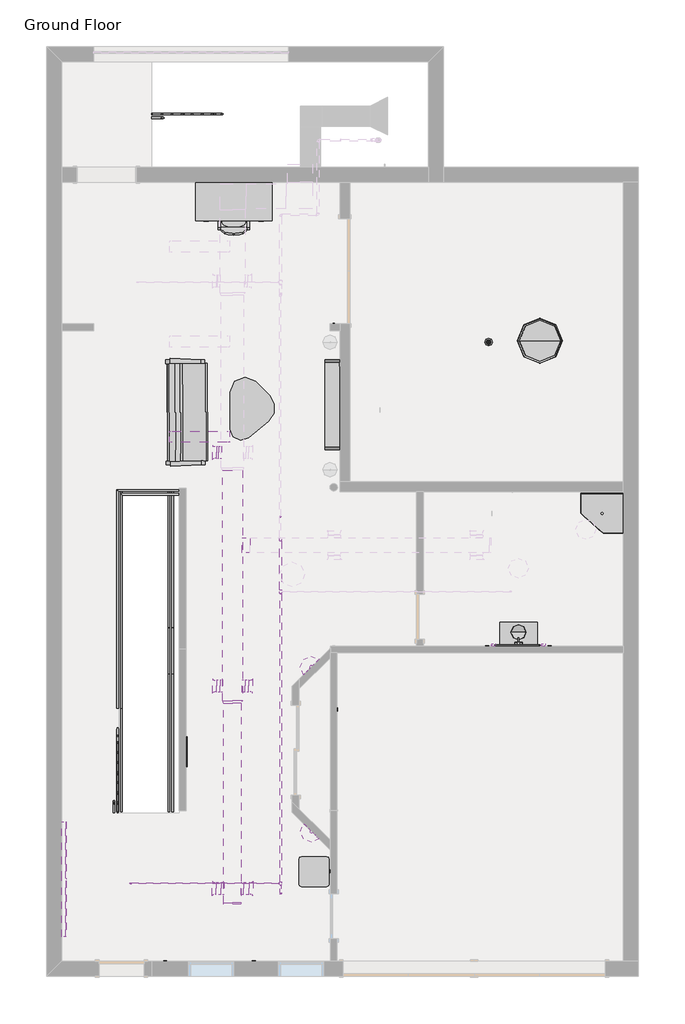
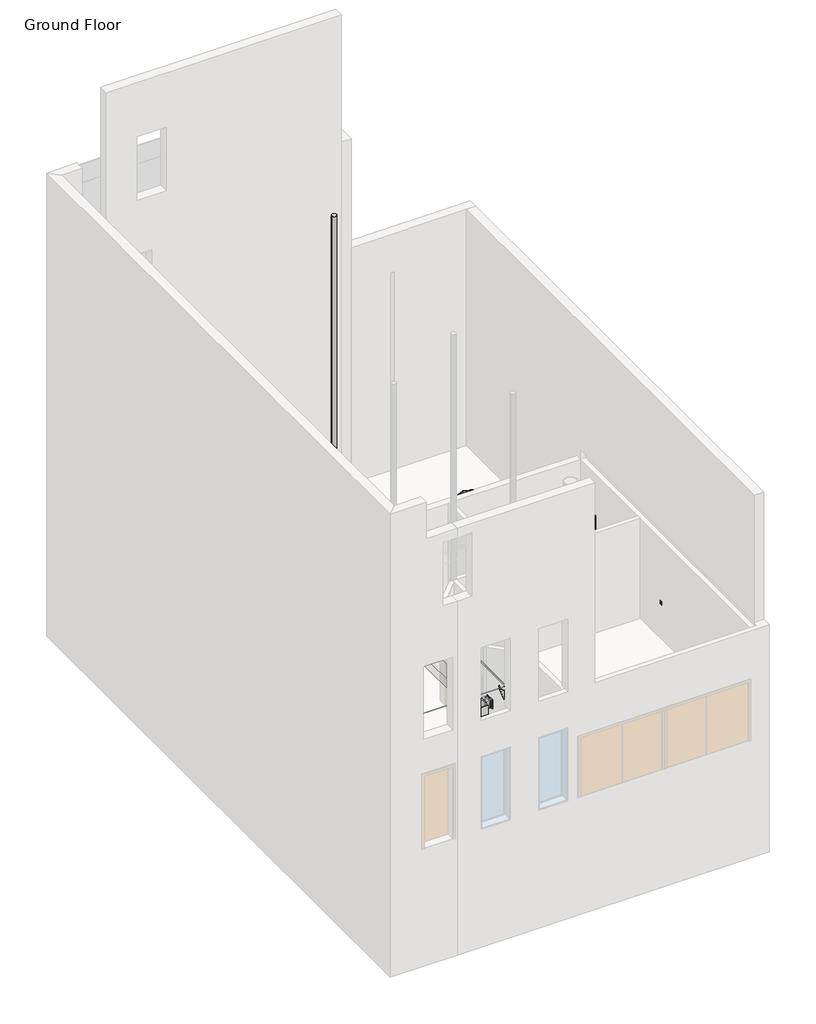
# One storey, part 2 of 4: 17 pipe fittings, 13 pipe segments, 9 furniture elements, 8 duct fittings, 7 duct segments, 7 proxies, 6 light fixtures, 5 air terminals, 12 other elements.
"""IFC4 building model written with IfcOpenShell, lengths in millimetres."""

from ifc_helpers import new_model, si_unit, point, frame, frame_2d, origin, place, context, project, spatial, polyline, circle_curve, trimmed, segment, composite_curve, outline, extrude, transform, mapped, element, save
from ifc_brep_helpers import plane_surface, cylinder_surface, advanced_brep
from components import air_terminal_37217d21, receptacle_gfci_367a9a66, rectangular_duct_endcap_standard_acce21dd, rectangular_duct_takeoff_sidewall_standard_8ecd27dc, rectangular_duct_takeoff_sidewall_standard_de4d9739, rectangular_duct_takeoff_standard_44ffc3b4, rectangular_duct_transition_standard_857d146e, fire_suppression_terminal_f250fbbb, flow_terminal_45145805, flow_terminal_8c04bb20, flow_terminal_b3096e9a, chair_executive_chair_executive_8d69e98c, furniture_013ab306, maple_legs_1e4ba76a, mirror_2_x_6_381cc33e, mirror_3_x_4_424c4327, furniture_6f8441ab, furniture_fb1f61f5, furniture_bcf351fa, furniture_c80d6d9c, light_fixture_3b4cde5a, light_fixture_b06bbfae, sconce_light_uplight_100w_120v_70b3641e, bow_series_bow_series_fd234733, pipe_elbow_standard_aad62f2d, pipe_elbow1_standard_2_feaaf02c, pipe_tee_standard_feafe2f1, pipe_tee_standard_60c871d1, pipe_transition_eccentric_standard_8de4c794, pipe_transition_eccentric_standard_b9d171b6, pipe_transition_eccentric_standard_dbf49378, pipe_transition_eccentric_standard_a9eec213, guardrail_pipe_c5471f49, guardrail_pipe_06b17180, guardrail_pipe_2ce98fbd, guardrail_pipe_2feb66e3, guardrail_pipe_ee13584f

model = new_model("IFC4")

# Units and contexts
model_context = context("Model", 3, world=origin())
ifc_project = project(units=[si_unit("LENGTHUNIT", "METRE", prefix="MILLI")], contexts=[model_context])

# Site, building, storey
site = spatial("IfcSite", under=ifc_project)
building = spatial("IfcBuilding", under=site)
storey = spatial("IfcBuildingStorey", under=building, Name="Ground Floor", Elevation=0.0)

# Air terminals
placement = place(None, origin())
air_terminal_shape = air_terminal_37217d21(model_context)
element("IfcAirTerminal", 1, ObjectType="Sidewall Diffuser : 10\" x 10\"", at=placement, inside=storey, context=model_context, shape_type="MappedRepresentation", body=[
    mapped(air_terminal_shape, transform((-1397.8737449, -5204.9375025, 2743.2), x_axis=(0.0, -1.0000000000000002, 0.0), y_axis=(1.0000000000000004, 0.0, 0.0), z_axis=(0.0, 0.0, 1.0000000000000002))),
])
element("IfcAirTerminal", 2, ObjectType="Sidewall Diffuser : 10\" x 10\"", at=placement, inside=storey, context=model_context, shape_type="MappedRepresentation", body=[
    mapped(air_terminal_shape, transform((-1391.5237449, -1090.1375025, 2743.2), x_axis=(0.0, -1.0000000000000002, 0.0), y_axis=(1.0000000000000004, 0.0, 0.0), z_axis=(0.0, 0.0, 1.0000000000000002))),
])
element("IfcAirTerminal", 3, ObjectType="Sidewall Diffuser : 10\" x 10\"", at=placement, inside=storey, context=model_context, shape_type="MappedRepresentation", body=[
    mapped(air_terminal_shape, transform((-581.3861702, -1090.1375025, 2743.2), x_axis=(0.0, 1.0, 0.0), y_axis=(-1.0, 0.0, 0.0), z_axis=(0.0, 0.0, 1.0))),
])
element("IfcAirTerminal", 4, ObjectType="Sidewall Diffuser : 10\" x 10\"", at=placement, inside=storey, context=model_context, shape_type="MappedRepresentation", body=[
    mapped(air_terminal_shape, transform((-1391.5237449, 3659.6624975, 2743.2), x_axis=(0.0, -1.0000000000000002, 0.0), y_axis=(1.0000000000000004, 0.0, 0.0), z_axis=(0.0, 0.0, 1.0000000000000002))),
])
element("IfcAirTerminal", 5, ObjectType="Sidewall Diffuser : 10\" x 10\"", at=placement, inside=storey, context=model_context, shape_type="MappedRepresentation", body=[
    mapped(air_terminal_shape, transform((-579.0909416, -5204.9375025, 2743.2), x_axis=(0.0, 1.0, 0.0), y_axis=(-1.0, 0.0, 0.0), z_axis=(0.0, 0.0, 1.0))),
])

# Proxies
receptacle_gfci_shape = receptacle_gfci_367a9a66(model_context)
element("IfcBuildingElementProxy", 6, Name="Receptacle : GFCI", ObjectType="Receptacle : GFCI", at=placement, inside=storey, context=model_context, shape_type="MappedRepresentation", body=[
    mapped(receptacle_gfci_shape, transform((-555.4439612, -6684.540357, 1219.2), x_axis=(-1.0, 0.0, 0.0), y_axis=(0.0, 0.0, 1.0), z_axis=(0.0, 1.0, 0.0))),
])
element("IfcBuildingElementProxy", 7, Name="Receptacle : GFCI", ObjectType="Receptacle : GFCI", at=placement, inside=storey, context=model_context, shape_type="MappedRepresentation", body=[
    mapped(receptacle_gfci_shape, transform((-2358.8439612, -6684.540357, 1219.2), x_axis=(-1.0, 0.0, 0.0), y_axis=(0.0, 0.0, 1.0), z_axis=(0.0, 1.0, 0.0))),
])
element("IfcBuildingElementProxy", 8, Name="Receptacle : GFCI", ObjectType="Receptacle : GFCI", at=placement, inside=storey, context=model_context, shape_type="MappedRepresentation", body=[
    mapped(receptacle_gfci_shape, transform((1000.3060388, -4855.740357, 1219.2), x_axis=(0.0, -1.0, 0.0), y_axis=(0.0, 0.0, 1.0), z_axis=(-1.0, 0.0, 0.0))),
])
element("IfcBuildingElementProxy", 9, Name="Receptacle : GFCI", ObjectType="Receptacle : GFCI", at=placement, inside=storey, context=model_context, shape_type="MappedRepresentation", body=[
    mapped(receptacle_gfci_shape, transform((4194.3560388, -277.390357, 1219.2), x_axis=(-1.0, 0.0, 0.0), y_axis=(0.0, 0.0, 1.0), z_axis=(0.0, 1.0, 0.0))),
])
element("IfcBuildingElementProxy", 10, Name="Receptacle : GFCI", ObjectType="Receptacle : GFCI", at=placement, inside=storey, context=model_context, shape_type="MappedRepresentation", body=[
    mapped(receptacle_gfci_shape, transform((1140.0060388, -1566.440357, 1219.2), x_axis=(0.0, 1.0, 0.0), y_axis=(0.0, 0.0, 1.0), z_axis=(1.0, 0.0, 0.0))),
])
element("IfcBuildingElementProxy", 11, Name="Receptacle : GFCI", ObjectType="Receptacle : GFCI", at=placement, inside=storey, context=model_context, shape_type="MappedRepresentation", body=[
    mapped(receptacle_gfci_shape, transform((6962.9560388, -1566.440357, 1219.2), x_axis=(0.0, -1.0, 0.0), y_axis=(0.0, 0.0, 1.0), z_axis=(-1.0, 0.0, 0.0))),
])
element("IfcBuildingElementProxy", 12, Name="Receptacle : GFCI", ObjectType="Receptacle : GFCI", at=placement, inside=storey, context=model_context, shape_type="MappedRepresentation", body=[
    mapped(receptacle_gfci_shape, transform((5464.3560388, -277.390357, 1219.2), x_axis=(-1.0, 0.0, 0.0), y_axis=(0.0, 0.0, 1.0), z_axis=(0.0, 1.0, 0.0))),
])

# Column
element("IfcColumn", 13, ObjectType="Round Column : 06\" Diameter", at=placement, inside=storey, context=model_context, shape_type="AdvancedBrep", body=[
    advanced_brep(
    [(1146.3560388, 6205.959643, 11582.4), (1070.1560388, 6282.159643, 11582.4), (993.9560388, 6205.959643, 11582.4), (1039.7025086, 6275.809643, 0.0), (1070.1560388, 6282.159643, 0.0), (1100.609569, 6275.809643, 0.0), (1146.3560388, 6205.959643, 3352.8), (1100.609569, 6275.809643, 3352.8), (1039.7025086, 6275.809643, 3352.8), (993.9560388, 6205.959643, 3352.8), (1039.7025086, 6136.109643, 3352.8), (1039.7025086, 6136.109643, 0.0), (1100.609569, 6136.109643, 0.0), (1100.609569, 6136.109643, 3352.8)],
    [
        (0, 1, circle_curve(frame((1070.1560388, 6205.959643, 11582.4), z_axis=(0.0, 0.0, 1.0), x_axis=(1.0, 0.0, 0.0)), 76.2)),
        (1, 2, circle_curve(frame((1070.1560388, 6205.959643, 11582.4), z_axis=(0.0, 0.0, 1.0), x_axis=(1.0, 0.0, 0.0)), 76.2)),
        (2, 0, circle_curve(frame((1070.1560388, 6205.959643, 11582.4), z_axis=(0.0, 0.0, 1.0), x_axis=(1.0, 0.0, 0.0)), 76.2)),
        (3, 4, circle_curve(frame((1070.1560388, 6205.959643, 0.0), z_axis=(0.0, 0.0, -1.0), x_axis=(1.0, 0.0, 0.0)), 76.2)),
        (4, 5, circle_curve(frame((1070.1560388, 6205.959643, 0.0), z_axis=(0.0, 0.0, -1.0), x_axis=(1.0, 0.0, 0.0)), 76.2)),
        (5, 3),
        (0, 6),
        (6, 7, circle_curve(frame((1070.1560388, 6205.959643, 3352.8), z_axis=(0.0, 0.0, 1.0), x_axis=(1.0, 0.0, 0.0)), 76.2)),
        (7, 5),
        (4, 1),
        (3, 8),
        (8, 9, circle_curve(frame((1070.1560388, 6205.959643, 3352.8), z_axis=(0.0, 0.0, 1.0), x_axis=(1.0, 0.0, 0.0)), 76.2)),
        (9, 2),
        (9, 10, circle_curve(frame((1070.1560388, 6205.959643, 3352.8), z_axis=(0.0, 0.0, 1.0), x_axis=(1.0, 0.0, 0.0)), 76.2)),
        (10, 11),
        (11, 12, circle_curve(frame((1070.1560388, 6205.959643, 0.0), z_axis=(0.0, 0.0, 1.0), x_axis=(1.0, 0.0, 0.0)), 76.2)),
        (12, 13),
        (13, 6, circle_curve(frame((1070.1560388, 6205.959643, 3352.8), z_axis=(0.0, 0.0, 1.0), x_axis=(1.0, 0.0, 0.0)), 76.2)),
        (10, 13),
        (12, 11),
        (7, 8),
    ],
    [
        plane_surface(frame((1146.3560388, 6205.959643, 11582.4), z_axis=(0.0, 0.0, 1.0), x_axis=(0.0, 1.0, 0.0))),
        plane_surface(frame((1146.3560388, 6205.959643, 0.0), z_axis=(0.0, 0.0, -1.0), x_axis=(0.0, -1.0, 0.0))),
        cylinder_surface(frame((1070.1560388, 6205.959643, 0.0), z_axis=(0.0, 0.0, 1.0), x_axis=(1.0, 0.0, 0.0)), 76.2),
        plane_surface(frame((993.9560388, 6136.109643, 0.0), z_axis=(0.0, 1.0, 0.0), x_axis=(1.0, 0.0, 0.0))),
        plane_surface(frame((993.9560388, 6275.809643, 0.0), z_axis=(0.0, -1.0, 0.0), x_axis=(-1.0, 0.0, 0.0))),
        plane_surface(frame((-4619.4439612, 11603.459643, 3352.8), z_axis=(0.0, 0.0, -1.0), x_axis=(0.0, 1.0, 0.0))),
    ],
    [
        (0, [[1, 2, 3]]),
        (1, [[4, 5, 6]]),
        (2, [[-1, 7, 8, 9, -5, 10]]),
        (2, [[-2, -10, -4, 11, 12, 13]]),
        (2, [[-3, -13, 14, 15, 16, 17, 18, -7]]),
        (3, [[19, -17, 20, -15]]),
        (4, [[21, -11, -6, -9]]),
        (5, [[-19, -14, -12, -21, -8, -18]]),
        (1, [[-16, -20]]),
    ],
),
])

# Duct fittings
rectangular_duct_endcap_standard_shape = rectangular_duct_endcap_standard_acce21dd(model_context)
element("IfcDuctFitting", 14, ObjectType="Rectangular Duct Endcap : Standard", at=placement, inside=storey, context=model_context, shape_type="MappedRepresentation", body=[
    mapped(rectangular_duct_endcap_standard_shape, transform((-990.238896, -5497.070485, 2743.2), x_axis=(0.0, -1.0, 0.0), y_axis=(1.0, 0.0, 0.0), z_axis=(0.0, 0.0, 1.0))),
])
rectangular_duct_takeoff_sidewall_standard_shape = rectangular_duct_takeoff_sidewall_standard_8ecd27dc(model_context)
element("IfcDuctFitting", 15, ObjectType="Rectangular Duct Takeoff - Sidewall : Standard", at=placement, inside=storey, context=model_context, shape_type="MappedRepresentation", body=[
    mapped(rectangular_duct_takeoff_sidewall_standard_shape, transform((-812.438896, -5204.9375025, 2743.2), x_axis=(1.0, 0.0, 0.0), y_axis=(0.0, -1.0, 0.0), z_axis=(0.0, 0.0, -1.0))),
])
element("IfcDuctFitting", 16, ObjectType="Rectangular Duct Takeoff - Sidewall : Standard", at=placement, inside=storey, context=model_context, shape_type="MappedRepresentation", body=[
    mapped(rectangular_duct_takeoff_sidewall_standard_shape, transform((-787.038896, -1090.1375025, 2743.2), x_axis=(1.0, 0.0, 0.0), y_axis=(0.0, -1.0, 0.0), z_axis=(0.0, 0.0, -1.0))),
])
rectangular_duct_takeoff_sidewall_standard_2_shape = rectangular_duct_takeoff_sidewall_standard_de4d9739(model_context)
element("IfcDuctFitting", 17, ObjectType="Rectangular Duct Takeoff - Sidewall : Standard", at=placement, inside=storey, context=model_context, shape_type="MappedRepresentation", body=[
    mapped(rectangular_duct_takeoff_sidewall_standard_2_shape, transform((-1168.038896, -5204.9375025, 2743.2), x_axis=(-1.0, 0.0, 0.0), y_axis=(0.0, 1.0, 0.0), z_axis=(0.0, 0.0, -1.0))),
])
element("IfcDuctFitting", 18, ObjectType="Rectangular Duct Takeoff - Sidewall : Standard", at=placement, inside=storey, context=model_context, shape_type="MappedRepresentation", body=[
    mapped(rectangular_duct_takeoff_sidewall_standard_2_shape, transform((-1193.438896, -1090.1375025, 2743.2), x_axis=(-1.0, 0.0, 0.0), y_axis=(0.0, 1.0, 0.0), z_axis=(0.0, 0.0, -1.0))),
])
element("IfcDuctFitting", 19, ObjectType="Rectangular Duct Takeoff - Sidewall : Standard", at=placement, inside=storey, context=model_context, shape_type="MappedRepresentation", body=[
    mapped(rectangular_duct_takeoff_sidewall_standard_2_shape, transform((-1218.838896, 3659.6624975, 2743.2), x_axis=(-1.0, 0.0, 0.0), y_axis=(0.0, 1.0, 0.0), z_axis=(0.0, 0.0, -1.0))),
])
rectangular_duct_takeoff_standard_shape = rectangular_duct_takeoff_standard_44ffc3b4(model_context)
element("IfcDuctFitting", 20, ObjectType="Rectangular Duct Takeoff : Standard", at=placement, inside=storey, context=model_context, shape_type="MappedRepresentation", body=[
    mapped(rectangular_duct_takeoff_standard_shape, transform((-787.038896, 1772.0589688, 2743.2), x_axis=(1.0, 0.0, 0.0), y_axis=(0.0, -1.0, 0.0), z_axis=(0.0, 0.0, -1.0))),
])
rectangular_duct_transition_standard_shape = rectangular_duct_transition_standard_857d146e(model_context)
element("IfcDuctFitting", 21, ObjectType="Rectangular Duct Transition : Standard", at=placement, inside=storey, context=model_context, shape_type="MappedRepresentation", body=[
    mapped(rectangular_duct_transition_standard_shape, transform((-990.238896, -1385.445485, 2743.2), x_axis=(0.0, -1.0, 0.0), y_axis=(1.0, 0.0, 0.0), z_axis=(0.0, 0.0, 1.0))),
])

# Duct segments
element("IfcDuctSegment", 22, ObjectType="Mitered Elbows / Taps Sidewall", at=placement, inside=storey, context=model_context, shape_type="SweptSolid", body=[
    extrude(outline(polyline([(-1168.038896, -1436.245485), (-812.438896, -1436.245485), (-812.438896, -5497.070485), (-1168.038896, -5497.070485), (-1168.038896, -1436.245485)])), frame((0.0, 0.0, 2590.8), z_axis=(0.0, 0.0, 1.0), x_axis=(1.0, 0.0, 0.0)), (0.0, 0.0, 1.0), 304.8),
])
element("IfcDuctSegment", 23, ObjectType="Mitered Elbows / Taps Sidewall", at=placement, inside=storey, context=model_context, shape_type="SweptSolid", body=[
    extrude(outline(polyline([(-761.638896, -5331.9375025), (-761.638896, -5077.9375025), (-655.2909416, -5077.9375025), (-655.2909416, -5331.9375025), (-761.638896, -5331.9375025)])), frame((0.0, 0.0, 2616.2), z_axis=(0.0, 0.0, 1.0), x_axis=(1.0, 0.0, 0.0)), (0.0, 0.0, 1.0), 254.0),
])
element("IfcDuctSegment", 24, ObjectType="Mitered Elbows / Taps Sidewall", at=placement, inside=storey, context=model_context, shape_type="SweptSolid", body=[
    extrude(outline(polyline([(-1218.838896, -5077.9375025), (-1218.838896, -5331.9375025), (-1321.6737449, -5331.9375025), (-1321.6737449, -5077.9375025), (-1218.838896, -5077.9375025)])), frame((0.0, 0.0, 2616.2), z_axis=(0.0, 0.0, 1.0), x_axis=(1.0, 0.0, 0.0)), (0.0, 0.0, 1.0), 254.0),
])
element("IfcDuctSegment", 25, ObjectType="Mitered Elbows / Taps Sidewall", at=placement, inside=storey, context=model_context, shape_type="SweptSolid", body=[
    extrude(outline(polyline([(-736.238896, -1217.1375025), (-736.238896, -963.1375025), (-657.5861702, -963.1375025), (-657.5861702, -1217.1375025), (-736.238896, -1217.1375025)])), frame((0.0, 0.0, 2616.2), z_axis=(0.0, 0.0, 1.0), x_axis=(1.0, 0.0, 0.0)), (0.0, 0.0, 1.0), 254.0),
])
element("IfcDuctSegment", 26, ObjectType="Mitered Elbows / Taps Sidewall", at=placement, inside=storey, context=model_context, shape_type="SweptSolid", body=[
    extrude(outline(polyline([(-1244.238896, -963.1375025), (-1244.238896, -1217.1375025), (-1315.3237449, -1217.1375025), (-1315.3237449, -963.1375025), (-1244.238896, -963.1375025)])), frame((0.0, 0.0, 2616.2), z_axis=(0.0, 0.0, 1.0), x_axis=(1.0, 0.0, 0.0)), (0.0, 0.0, 1.0), 254.0),
])
element("IfcDuctSegment", 27, ObjectType="Mitered Elbows / Taps Sidewall", at=placement, inside=storey, context=model_context, shape_type="SweptSolid", body=[
    extrude(outline(polyline([(-1269.638896, 3786.6624975), (-1269.638896, 3532.6624975), (-1315.3237449, 3532.6624975), (-1315.3237449, 3786.6624975), (-1269.638896, 3786.6624975)])), frame((0.0, 0.0, 2616.2), z_axis=(0.0, 0.0, 1.0), x_axis=(1.0, 0.0, 0.0)), (0.0, 0.0, 1.0), 254.0),
])
element("IfcDuctSegment", 28, ObjectType="Mitered Elbows / Taps Sidewall", at=placement, inside=storey, context=model_context, shape_type="SweptSolid", body=[
    extrude(outline(polyline([(-1193.438896, 3291.329515), (-787.038896, 3291.329515), (-787.038896, -1385.445485), (-1193.438896, -1385.445485), (-1193.438896, 3291.329515)])), frame((0.0, 0.0, 2565.4), z_axis=(0.0, 0.0, 1.0), x_axis=(1.0, 0.0, 0.0)), (0.0, 0.0, 1.0), 355.6),
])

# Fire suppression terminals
fire_suppression_terminal_shape = fire_suppression_terminal_f250fbbb(model_context)
element("IfcFireSuppressionTerminal", 29, ObjectType="Sprinkler - Upright : 1/2\" Upright", at=placement, inside=storey, context=model_context, shape_type="MappedRepresentation", body=[
    mapped(fire_suppression_terminal_shape, transform((-9.3439612, 2351.509643, 3048.0), x_axis=(1.0, 0.0, 0.0), y_axis=(0.0, 1.0, 0.0), z_axis=(0.0, 0.0, 1.0))),
])
element("IfcFireSuppressionTerminal", 30, ObjectType="Sprinkler - Upright : 1/2\" Upright", at=placement, inside=storey, context=model_context, shape_type="MappedRepresentation", body=[
    mapped(fire_suppression_terminal_shape, transform((-9.3439612, -5312.940357, 3048.0), x_axis=(1.0, 0.0, 0.0), y_axis=(0.0, 1.0, 0.0), z_axis=(0.0, 0.0, 1.0))),
])
element("IfcFireSuppressionTerminal", 31, ObjectType="Sprinkler - Upright : 1/2\" Upright", at=placement, inside=storey, context=model_context, shape_type="MappedRepresentation", body=[
    mapped(fire_suppression_terminal_shape, transform((-3070.0439612, -5103.5822696, 3048.0), x_axis=(1.0, 0.0, 0.0), y_axis=(0.0, 1.0, 0.0), z_axis=(0.0, 0.0, 1.0))),
])

# Flow terminals
flow_terminal_shape = flow_terminal_45145805(model_context)
element("IfcFlowTerminal", 32, ObjectType="Corner Shower Stall : 32\"x34\"", at=placement, inside=storey, context=model_context, shape_type="MappedRepresentation", body=[
    mapped(flow_terminal_shape, transform((7216.7365112, 2851.6245183, 0.0), x_axis=(-1.0, 0.0, 0.0), y_axis=(0.0, -1.0, 0.0), z_axis=(0.0, 0.0, 1.0))),
])
flow_terminal_2_shape = flow_terminal_8c04bb20(model_context)
element("IfcFlowTerminal", 33, ObjectType="Round Floor Drain : 6\"", at=placement, inside=storey, context=model_context, shape_type="MappedRepresentation", body=[
    mapped(flow_terminal_2_shape, transform((4219.5878267, 5901.1630952, 0.0), x_axis=(1.0, 0.0, 0.0), y_axis=(0.0, 1.0, 0.0), z_axis=(0.0, 0.0, 1.0))),
])
flow_terminal_3_shape = flow_terminal_b3096e9a(model_context)
element("IfcFlowTerminal", 34, ObjectType="Vanity Lavatory : 30\" x 19\"", at=placement, inside=storey, context=model_context, shape_type="MappedRepresentation", body=[
    mapped(flow_terminal_3_shape, transform((4829.3389227, -277.390357, 0.0), x_axis=(0.0, 1.0, 0.0), y_axis=(-1.0, 0.0, 0.0), z_axis=(0.0, 0.0, 1.0))),
])

# Furniture
chair_executive_chair_executive_shape = chair_executive_chair_executive_8d69e98c(model_context)
element("IfcFurniture", 35, ObjectType="Chair-Executive : Chair-Executive", at=placement, inside=storey, context=model_context, shape_type="MappedRepresentation", body=[
    mapped(chair_executive_chair_executive_shape, transform((-1102.8347809, 8422.2137413, 0.0), x_axis=(1.0, 0.0, 0.0), y_axis=(0.0, 1.0, 0.0), z_axis=(0.0, 0.0, 1.0))),
])
furniture_shape = furniture_013ab306(model_context)
element("IfcFurniture", 36, ObjectType="Desk : 60\" x 30\"", at=placement, inside=storey, context=model_context, shape_type="MappedRepresentation", body=[
    mapped(furniture_shape, transform((-1723.8439612, 8390.359643, 0.0), x_axis=(1.0, 0.0, 0.0), y_axis=(0.0, 1.0, 0.0), z_axis=(0.0, 0.0, 1.0))),
])
maple_legs_shape = maple_legs_1e4ba76a(model_context)
element("IfcFurniture", 37, ObjectType="Noguchi Table : Maple Legs", at=placement, inside=storey, context=model_context, shape_type="MappedRepresentation", body=[
    mapped(maple_legs_shape, transform((-682.4439612, 4485.109643, 0.0), x_axis=(0.0, -1.0, 0.0), y_axis=(1.0, 0.0, 0.0), z_axis=(0.0, 0.0, 1.0))),
])
mirror_2_x_6_shape = mirror_2_x_6_381cc33e(model_context)
element("IfcFurniture", 38, ObjectType="Mirror : 2' x 6'", at=placement, inside=storey, context=model_context, shape_type="MappedRepresentation", body=[
    mapped(mirror_2_x_6_shape, transform((-1933.3939612, -2430.040357, 1219.2), x_axis=(0.0, 1.0, 0.0), y_axis=(0.0, 0.0, 1.0), z_axis=(1.0, 0.0, 0.0))),
])
mirror_3_x_4_shape = mirror_3_x_4_424c4327(model_context)
element("IfcFurniture", 39, ObjectType="Mirror : 3' x 4'", at=placement, inside=storey, context=model_context, shape_type="MappedRepresentation", body=[
    mapped(mirror_3_x_4_shape, transform((4803.9560388, -277.390357, 1219.2), x_axis=(-1.0, 0.0, 0.0), y_axis=(0.0, 0.0, 1.0), z_axis=(0.0, 1.0, 0.0))),
])
furniture_2_shape = furniture_6f8441ab(model_context)
element("IfcFurniture", 40, ObjectType="Shelving : 72\" x 12\" x 84\"", at=placement, inside=storey, context=model_context, shape_type="MappedRepresentation", body=[
    mapped(furniture_2_shape, transform((739.9560388, 4631.159643, 0.0), x_axis=(0.0, 1.0, 0.0), y_axis=(-1.0, 0.0, 0.0), z_axis=(0.0, 0.0, 1.0))),
])
furniture_3_shape = furniture_fb1f61f5(model_context)
element("IfcFurniture", 41, ObjectType="Sofa-Pensi : 84\"", at=placement, inside=storey, context=model_context, shape_type="MappedRepresentation", body=[
    mapped(furniture_3_shape, transform((-1643.9917025, 4196.9975089, 0.0), x_axis=(-0.0045481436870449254, 0.9999896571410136, 0.0), y_axis=(-0.9999896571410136, -0.0045481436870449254, 0.0), z_axis=(0.0, 0.0, 1.0))),
])
furniture_4_shape = furniture_bcf351fa(model_context)
element("IfcFurniture", 42, ObjectType="Table-End : 24\" x 24\"", at=placement, inside=storey, context=model_context, shape_type="MappedRepresentation", body=[
    mapped(furniture_4_shape, transform((361.5724085, -5017.3075397, 0.0), x_axis=(1.0, 0.0, 0.0), y_axis=(0.0, 1.0, 0.0), z_axis=(0.0, 0.0, 1.0))),
])
furniture_5_shape = furniture_c80d6d9c(model_context)
element("IfcFurniture", 43, ObjectType="Table-Round : 36\" Diameter", at=placement, inside=storey, context=model_context, shape_type="MappedRepresentation", body=[
    mapped(furniture_5_shape, transform((5261.1560388, 5926.559643, 0.0), x_axis=(1.0, 0.0, 0.0), y_axis=(0.0, 1.0, 0.0), z_axis=(0.0, 0.0, 1.0))),
])

# Light fixtures
light_fixture_shape = light_fixture_3b4cde5a(model_context)
element("IfcLightFixture", 44, ObjectType="soli continuum : soli continuum", at=placement, inside=storey, context=model_context, shape_type="MappedRepresentation", body=[
    mapped(light_fixture_shape, transform((-4416.2439612, -5049.5478596, 0.0), x_axis=(0.0, 1.0000000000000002, 0.0), y_axis=(-1.0000000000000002, 0.0, 0.0), z_axis=(0.0, 0.0, 1.0))),
])
light_fixture_2_shape = light_fixture_b06bbfae(model_context)
element("IfcLightFixture", 45, ObjectType="Pendant Light - Linear - 2 Lamp : 48\" - 120V", at=placement, inside=storey, context=model_context, shape_type="MappedRepresentation", body=[
    mapped(light_fixture_2_shape, transform((-1660.3439612, 3977.109643, 3352.8), x_axis=(1.0, 0.0, 0.0), y_axis=(0.0, -1.0, 0.0), z_axis=(0.0, 0.0, -1.0))),
])
sconce_light_uplight_100w_120v_shape = sconce_light_uplight_100w_120v_70b3641e(model_context)
element("IfcLightFixture", 46, ObjectType="Sconce Light - Uplight : 60W - 120V", at=placement, inside=storey, context=model_context, shape_type="MappedRepresentation", body=[
    mapped(sconce_light_uplight_100w_120v_shape, transform((616.7579071, -4043.9250427, 1930.4), x_axis=(0.7071067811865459, -0.7071067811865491, 0.0), y_axis=(0.0, 0.0, 1.0), z_axis=(-0.7071067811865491, -0.7071067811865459, 0.0))),
])
element("IfcLightFixture", 47, ObjectType="Sconce Light - Uplight : 60W - 120V", at=placement, inside=storey, context=model_context, shape_type="MappedRepresentation", body=[
    mapped(sconce_light_uplight_100w_120v_shape, transform((611.5607319, -707.0528466, 1930.4), x_axis=(-0.7071067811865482, -0.7071067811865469, 0.0), y_axis=(0.0, 0.0, 1.0), z_axis=(-0.7071067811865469, 0.7071067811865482, 0.0))),
])
bow_series_bow_series_shape = bow_series_bow_series_fd234733(model_context)
element("IfcLightFixture", 48, ObjectType="bow series : bow series", at=placement, inside=storey, context=model_context, shape_type="MappedRepresentation", body=[
    mapped(bow_series_bow_series_shape, transform((4321.3389227, -241.665257, 1524.0), x_axis=(-1.0, 0.0, 0.0), y_axis=(0.0, -1.0, 0.0), z_axis=(0.0, 0.0, 1.0))),
])
element("IfcLightFixture", 49, ObjectType="bow series : bow series", at=placement, inside=storey, context=model_context, shape_type="MappedRepresentation", body=[
    mapped(bow_series_bow_series_shape, transform((5337.3389227, -241.665257, 1524.0), x_axis=(-1.0, 0.0, 0.0), y_axis=(0.0, -1.0, 0.0), z_axis=(0.0, 0.0, 1.0))),
])

# Pipe fittings
pipe_elbow_standard_shape = pipe_elbow_standard_aad62f2d(model_context)
element("IfcPipeFitting", 50, ObjectType="Pipe Elbow1 : Standard 2", at=placement, inside=storey, context=model_context, shape_type="MappedRepresentation", body=[
    mapped(pipe_elbow_standard_shape, transform((4727.7389227, -385.3398725, 685.8), x_axis=(0.0, -1.0, 0.0), y_axis=(0.0, 0.0, -1.0), z_axis=(1.0, 0.0, 0.0))),
])
element("IfcPipeFitting", 51, ObjectType="Pipe Elbow1 : Standard 2", at=placement, inside=storey, context=model_context, shape_type="MappedRepresentation", body=[
    mapped(pipe_elbow_standard_shape, transform((4727.7389227, -385.3398725, -533.4), x_axis=(0.0, 0.0, -1.0), y_axis=(-1.0, 0.0, 0.0), z_axis=(0.0, 1.0, 0.0))),
])
element("IfcPipeFitting", 52, ObjectType="Pipe Elbow1 : Standard 2", at=placement, inside=storey, context=model_context, shape_type="MappedRepresentation", body=[
    mapped(pipe_elbow_standard_shape, transform((4295.9556442, -385.3398725, -533.4), x_axis=(-1.0, 0.0, 0.0), y_axis=(0.0, 1.0, 0.0), z_axis=(0.0, 0.0, -1.0))),
])
element("IfcPipeFitting", 53, ObjectType="Pipe Elbow1 : Standard 2", at=placement, inside=storey, context=model_context, shape_type="MappedRepresentation", body=[
    mapped(pipe_elbow_standard_shape, transform((4930.9389227, -347.240357, 685.8), x_axis=(0.0, -1.0, 0.0), y_axis=(0.0, 0.0, -1.0), z_axis=(1.0, 0.0, 0.0))),
])
element("IfcPipeFitting", 54, ObjectType="Pipe Elbow1 : Standard 2", at=placement, inside=storey, context=model_context, shape_type="MappedRepresentation", body=[
    mapped(pipe_elbow_standard_shape, transform((4930.9389227, -347.240357, -609.6), x_axis=(0.0, 0.0, -1.0), y_axis=(-1.0, 0.0, 0.0), z_axis=(0.0, 1.0, 0.0))),
])
element("IfcPipeFitting", 55, ObjectType="Pipe Elbow1 : Standard 2", at=placement, inside=storey, context=model_context, shape_type="MappedRepresentation", body=[
    mapped(pipe_elbow_standard_shape, transform((4346.7556442, -347.240357, -609.6), x_axis=(-1.0, 0.0, 0.0), y_axis=(0.0, 1.0, 0.0), z_axis=(0.0, 0.0, -1.0))),
])
pipe_elbow1_standard_2_shape = pipe_elbow1_standard_2_feaaf02c(model_context)
element("IfcPipeFitting", 56, ObjectType="Pipe Elbow1 : Standard 2", at=placement, inside=storey, context=model_context, shape_type="MappedRepresentation", body=[
    mapped(pipe_elbow1_standard_2_shape, transform((-9.3439612, -5312.940357, 2997.2), x_axis=(0.0, 0.0, -1.0), y_axis=(0.0, 1.0, 0.0), z_axis=(1.0, 0.0, 0.0))),
])
element("IfcPipeFitting", 57, ObjectType="Pipe Elbow1 : Standard 2", at=placement, inside=storey, context=model_context, shape_type="MappedRepresentation", body=[
    mapped(pipe_elbow1_standard_2_shape, transform((-3070.0439612, -5103.5822696, 2997.2), x_axis=(0.0, 0.0, -1.0), y_axis=(1.0, 0.0, 0.0), z_axis=(0.0, -1.0, 0.0))),
])
pipe_tee_standard_shape = pipe_tee_standard_feafe2f1(model_context)
element("IfcPipeFitting", 58, ObjectType="Pipe Tee : Standard", at=placement, inside=storey, context=model_context, shape_type="MappedRepresentation", body=[
    mapped(pipe_tee_standard_shape, transform((-9.3439612, -5103.5822696, 2997.2), x_axis=(0.0, -1.0, 0.0), y_axis=(1.0, 0.0, 0.0), z_axis=(0.0, 0.0, 1.0))),
])
pipe_tee_standard_2_shape = pipe_tee_standard_60c871d1(model_context)
element("IfcPipeFitting", 59, ObjectType="Pipe Tee : Standard", at=placement, inside=storey, context=model_context, shape_type="MappedRepresentation", body=[
    mapped(pipe_tee_standard_2_shape, transform((-9.3439612, 1894.309643, 2997.2), x_axis=(0.0, 1.0, 0.0), y_axis=(0.0, 0.0, -1.0), z_axis=(-1.0, 0.0, 0.0))),
])
element("IfcPipeFitting", 60, ObjectType="Pipe Tee : Standard", at=placement, inside=storey, context=model_context, shape_type="MappedRepresentation", body=[
    mapped(pipe_tee_standard_2_shape, transform((-9.3439612, 827.509643, 2997.2), x_axis=(0.0, 1.0, 0.0), y_axis=(-1.0, 0.0, 0.0), z_axis=(0.0, 0.0, 1.0))),
])
pipe_transition_eccentric_standard_shape = pipe_transition_eccentric_standard_8de4c794(model_context)
element("IfcPipeFitting", 61, ObjectType="Pipe Transition Eccentric : Standard", at=placement, inside=storey, context=model_context, shape_type="MappedRepresentation", body=[
    mapped(pipe_transition_eccentric_standard_shape, transform((-9.3439612, 2351.509643, 3030.5375), x_axis=(0.0, 0.0, 1.0), y_axis=(1.0, 0.0, 0.0), z_axis=(0.0, 1.0, 0.0))),
])
pipe_transition_eccentric_standard_2_shape = pipe_transition_eccentric_standard_b9d171b6(model_context)
element("IfcPipeFitting", 62, ObjectType="Pipe Transition Eccentric : Standard", at=placement, inside=storey, context=model_context, shape_type="MappedRepresentation", body=[
    mapped(pipe_transition_eccentric_standard_2_shape, transform((-9.3439612, 794.172143, 2997.2), x_axis=(0.0, -1.0, 0.0), y_axis=(1.0, 0.0, 0.0), z_axis=(0.0, 0.0, 1.0))),
])
pipe_transition_eccentric_standard_3_shape = pipe_transition_eccentric_standard_dbf49378(model_context)
element("IfcPipeFitting", 63, ObjectType="Pipe Transition Eccentric : Standard", at=placement, inside=storey, context=model_context, shape_type="MappedRepresentation", body=[
    mapped(pipe_transition_eccentric_standard_3_shape, transform((-9.3439612, -5133.7447696, 2997.2), x_axis=(0.0, -1.0, 0.0), y_axis=(1.0, 0.0, 0.0), z_axis=(0.0, 0.0, 1.0))),
])
element("IfcPipeFitting", 64, ObjectType="Pipe Transition Eccentric : Standard", at=placement, inside=storey, context=model_context, shape_type="MappedRepresentation", body=[
    mapped(pipe_transition_eccentric_standard_3_shape, transform((-39.5064612, -5103.5822696, 2997.2), x_axis=(-1.0, 0.0, 0.0), y_axis=(0.0, -1.0, 0.0), z_axis=(0.0, 0.0, 1.0))),
])
pipe_transition_eccentric_standard_4_shape = pipe_transition_eccentric_standard_a9eec213(model_context)
element("IfcPipeFitting", 65, ObjectType="Pipe Transition Eccentric : Standard", at=placement, inside=storey, context=model_context, shape_type="MappedRepresentation", body=[
    mapped(pipe_transition_eccentric_standard_4_shape, transform((-9.3439612, -5312.940357, 3048.0), x_axis=(0.0, 0.0, -1.0), y_axis=(-1.0, 0.0, 0.0), z_axis=(0.0, 1.0, 0.0))),
])
element("IfcPipeFitting", 66, ObjectType="Pipe Transition Eccentric : Standard", at=placement, inside=storey, context=model_context, shape_type="MappedRepresentation", body=[
    mapped(pipe_transition_eccentric_standard_4_shape, transform((-3070.0439612, -5103.5822696, 3048.0), x_axis=(0.0, 0.0, -1.0), y_axis=(-1.0, 0.0, 0.0), z_axis=(0.0, 1.0, 0.0))),
])

# Pipe segments
element("IfcPipeSegment", 67, ObjectType="Standard", at=placement, inside=storey, context=model_context, shape_type="SweptSolid", body=[
    extrude(outline(composite_curve([segment(trimmed(circle_curve(frame_2d((685.8, 4727.7389227)), 7.9375), [point((685.8, 4719.8014227))], [point((677.8625, 4727.7389227))], False, "CARTESIAN"), True, "CONTINUOUS"), segment(trimmed(circle_curve(frame_2d((685.8, 4727.7389227)), 7.9375), [point((677.8625, 4727.7389227))], [point((685.8, 4735.6764227))], False, "CARTESIAN"), True, "CONTINUOUS"), segment(trimmed(circle_curve(frame_2d((685.8, 4727.7389227)), 7.9375), [point((685.8, 4735.6764227))], [point((693.7375, 4727.7389227))], False, "CARTESIAN"), True, "CONTINUOUS"), segment(trimmed(circle_curve(frame_2d((685.8, 4727.7389227)), 7.9375), [point((693.7375, 4727.7389227))], [point((685.8, 4719.8014227))], False, "CARTESIAN"), True, "CONTINUOUS")], self_intersect=False)), frame((0.0, -367.8773725, 0.0), z_axis=(0.0, 1.0, 0.0), x_axis=(0.0, 0.0, 1.0)), (0.0, 0.0, 1.0), 90.4870154),
])
element("IfcPipeSegment", 68, ObjectType="Standard", at=placement, inside=storey, context=model_context, shape_type="SweptSolid", body=[
    extrude(outline(composite_curve([segment(trimmed(circle_curve(frame_2d((-385.3398725, -533.4)), 7.9375), [point((-377.4023725, -533.4))], [point((-385.3398725, -541.3375))], False, "CARTESIAN"), True, "CONTINUOUS"), segment(trimmed(circle_curve(frame_2d((-385.3398725, -533.4)), 7.9375), [point((-385.3398725, -541.3375))], [point((-393.2773725, -533.4))], False, "CARTESIAN"), True, "CONTINUOUS"), segment(trimmed(circle_curve(frame_2d((-385.3398725, -533.4)), 7.9375), [point((-393.2773725, -533.4))], [point((-385.3398725, -525.4625))], False, "CARTESIAN"), True, "CONTINUOUS"), segment(trimmed(circle_curve(frame_2d((-385.3398725, -533.4)), 7.9375), [point((-385.3398725, -525.4625))], [point((-377.4023725, -533.4))], False, "CARTESIAN"), True, "CONTINUOUS")], self_intersect=False)), frame((4313.4181442, 0.0, 0.0), z_axis=(1.0, 0.0, 0.0), x_axis=(0.0, 1.0, 0.0)), (0.0, 0.0, 1.0), 396.8582785),
])
element("IfcPipeSegment", 69, ObjectType="Standard", at=placement, inside=storey, context=model_context, shape_type="SweptSolid", body=[
    extrude(outline(composite_curve([segment(trimmed(circle_curve(frame_2d((4727.7389227, -385.3398725)), 7.9375), [point((4727.7389227, -393.2773725))], [point((4719.8014227, -385.3398725))], False, "CARTESIAN"), True, "CONTINUOUS"), segment(trimmed(circle_curve(frame_2d((4727.7389227, -385.3398725)), 7.9375), [point((4719.8014227, -385.3398725))], [point((4727.7389227, -377.4023725))], False, "CARTESIAN"), True, "CONTINUOUS"), segment(trimmed(circle_curve(frame_2d((4727.7389227, -385.3398725)), 7.9375), [point((4727.7389227, -377.4023725))], [point((4735.6764227, -385.3398725))], False, "CARTESIAN"), True, "CONTINUOUS"), segment(trimmed(circle_curve(frame_2d((4727.7389227, -385.3398725)), 7.9375), [point((4735.6764227, -385.3398725))], [point((4727.7389227, -393.2773725))], False, "CARTESIAN"), True, "CONTINUOUS")], self_intersect=False)), frame((0.0, 0.0, -515.9375), z_axis=(0.0, 0.0, 1.0), x_axis=(1.0, 0.0, 0.0)), (0.0, 0.0, 1.0), 1184.275),
])
element("IfcPipeSegment", 70, ObjectType="Standard", at=placement, inside=storey, context=model_context, shape_type="SweptSolid", body=[
    extrude(outline(composite_curve([segment(trimmed(circle_curve(frame_2d((685.8, 4930.9389227)), 7.9375), [point((685.8, 4923.0014227))], [point((677.8625, 4930.9389227))], False, "CARTESIAN"), True, "CONTINUOUS"), segment(trimmed(circle_curve(frame_2d((685.8, 4930.9389227)), 7.9375), [point((677.8625, 4930.9389227))], [point((685.8, 4938.8764227))], False, "CARTESIAN"), True, "CONTINUOUS"), segment(trimmed(circle_curve(frame_2d((685.8, 4930.9389227)), 7.9375), [point((685.8, 4938.8764227))], [point((693.7375, 4930.9389227))], False, "CARTESIAN"), True, "CONTINUOUS"), segment(trimmed(circle_curve(frame_2d((685.8, 4930.9389227)), 7.9375), [point((693.7375, 4930.9389227))], [point((685.8, 4923.0014227))], False, "CARTESIAN"), True, "CONTINUOUS")], self_intersect=False)), frame((0.0, -329.777857, 0.0), z_axis=(0.0, 1.0, 0.0), x_axis=(0.0, 0.0, 1.0)), (0.0, 0.0, 1.0), 52.3875),
])
element("IfcPipeSegment", 71, ObjectType="Standard", at=placement, inside=storey, context=model_context, shape_type="SweptSolid", body=[
    extrude(outline(composite_curve([segment(trimmed(circle_curve(frame_2d((4930.9389227, -347.240357)), 7.9375), [point((4930.9389227, -355.177857))], [point((4923.0014227, -347.240357))], False, "CARTESIAN"), True, "CONTINUOUS"), segment(trimmed(circle_curve(frame_2d((4930.9389227, -347.240357)), 7.9375), [point((4923.0014227, -347.240357))], [point((4930.9389227, -339.302857))], False, "CARTESIAN"), True, "CONTINUOUS"), segment(trimmed(circle_curve(frame_2d((4930.9389227, -347.240357)), 7.9375), [point((4930.9389227, -339.302857))], [point((4938.8764227, -347.240357))], False, "CARTESIAN"), True, "CONTINUOUS"), segment(trimmed(circle_curve(frame_2d((4930.9389227, -347.240357)), 7.9375), [point((4938.8764227, -347.240357))], [point((4930.9389227, -355.177857))], False, "CARTESIAN"), True, "CONTINUOUS")], self_intersect=False)), frame((0.0, 0.0, -592.1375), z_axis=(0.0, 0.0, 1.0), x_axis=(1.0, 0.0, 0.0)), (0.0, 0.0, 1.0), 1260.475),
])
element("IfcPipeSegment", 72, ObjectType="Standard", at=placement, inside=storey, context=model_context, shape_type="SweptSolid", body=[
    extrude(outline(composite_curve([segment(trimmed(circle_curve(frame_2d((-347.240357, -609.6)), 7.9375), [point((-339.302857, -609.6))], [point((-347.240357, -617.5375))], False, "CARTESIAN"), True, "CONTINUOUS"), segment(trimmed(circle_curve(frame_2d((-347.240357, -609.6)), 7.9375), [point((-347.240357, -617.5375))], [point((-355.177857, -609.6))], False, "CARTESIAN"), True, "CONTINUOUS"), segment(trimmed(circle_curve(frame_2d((-347.240357, -609.6)), 7.9375), [point((-355.177857, -609.6))], [point((-347.240357, -601.6625))], False, "CARTESIAN"), True, "CONTINUOUS"), segment(trimmed(circle_curve(frame_2d((-347.240357, -609.6)), 7.9375), [point((-347.240357, -601.6625))], [point((-339.302857, -609.6))], False, "CARTESIAN"), True, "CONTINUOUS")], self_intersect=False)), frame((4364.2181442, 0.0, 0.0), z_axis=(1.0, 0.0, 0.0), x_axis=(0.0, 1.0, 0.0)), (0.0, 0.0, 1.0), 549.2582785),
])
element("IfcPipeSegment", 73, ObjectType="Standard", at=placement, inside=storey, context=model_context, shape_type="SweptSolid", body=[
    extrude(outline(composite_curve([segment(trimmed(circle_curve(frame_2d((-9.3439612, 2351.509643)), 7.9375), [point((-17.2814612, 2351.509643))], [point((-9.3439612, 2359.447143))], False, "CARTESIAN"), True, "CONTINUOUS"), segment(trimmed(circle_curve(frame_2d((-9.3439612, 2351.509643)), 7.9375), [point((-9.3439612, 2359.447143))], [point((-1.4064612, 2351.509643))], False, "CARTESIAN"), True, "CONTINUOUS"), segment(trimmed(circle_curve(frame_2d((-9.3439612, 2351.509643)), 7.9375), [point((-1.4064612, 2351.509643))], [point((-9.3439612, 2343.572143))], False, "CARTESIAN"), True, "CONTINUOUS"), segment(trimmed(circle_curve(frame_2d((-9.3439612, 2351.509643)), 7.9375), [point((-9.3439612, 2343.572143))], [point((-17.2814612, 2351.509643))], False, "CARTESIAN"), True, "CONTINUOUS")], self_intersect=False)), frame((0.0, 0.0, 3039.26875), z_axis=(0.0, 0.0, 1.0), x_axis=(1.0, 0.0, 0.0)), (0.0, 0.0, 1.0), 8.73125),
])
element("IfcPipeSegment", 74, ObjectType="Standard", at=placement, inside=storey, context=model_context, shape_type="SweptSolid", body=[
    extrude(outline(composite_curve([segment(trimmed(circle_curve(frame_2d((2997.2, -9.3439612)), 11.1125), [point((2997.2, 1.7685388))], [point((3008.3125, -9.3439612))], False, "CARTESIAN"), True, "CONTINUOUS"), segment(trimmed(circle_curve(frame_2d((2997.2, -9.3439612)), 11.1125), [point((3008.3125, -9.3439612))], [point((2997.2, -20.4564612))], False, "CARTESIAN"), True, "CONTINUOUS"), segment(trimmed(circle_curve(frame_2d((2997.2, -9.3439612)), 11.1125), [point((2997.2, -20.4564612))], [point((2986.0875, -9.3439612))], False, "CARTESIAN"), True, "CONTINUOUS"), segment(trimmed(circle_curve(frame_2d((2997.2, -9.3439612)), 11.1125), [point((2986.0875, -9.3439612))], [point((2997.2, 1.7685388))], False, "CARTESIAN"), True, "CONTINUOUS")], self_intersect=False)), frame((0.0, -5292.302857, 0.0), z_axis=(0.0, 1.0, 0.0), x_axis=(0.0, 0.0, 1.0)), (0.0, 0.0, 1.0), 151.4143374),
])
element("IfcPipeSegment", 75, ObjectType="Standard", at=placement, inside=storey, context=model_context, shape_type="SweptSolid", body=[
    extrude(outline(composite_curve([segment(trimmed(circle_curve(frame_2d((-9.3439612, -5312.940357)), 11.1125), [point((1.7685388, -5312.940357))], [point((-9.3439612, -5324.052857))], False, "CARTESIAN"), True, "CONTINUOUS"), segment(trimmed(circle_curve(frame_2d((-9.3439612, -5312.940357)), 11.1125), [point((-9.3439612, -5324.052857))], [point((-20.4564612, -5312.940357))], False, "CARTESIAN"), True, "CONTINUOUS"), segment(trimmed(circle_curve(frame_2d((-9.3439612, -5312.940357)), 11.1125), [point((-20.4564612, -5312.940357))], [point((-9.3439612, -5301.827857))], False, "CARTESIAN"), True, "CONTINUOUS"), segment(trimmed(circle_curve(frame_2d((-9.3439612, -5312.940357)), 11.1125), [point((-9.3439612, -5301.827857))], [point((1.7685388, -5312.940357))], False, "CARTESIAN"), True, "CONTINUOUS")], self_intersect=False)), frame((0.0, 0.0, 3017.8375), z_axis=(0.0, 0.0, 1.0), x_axis=(1.0, 0.0, 0.0)), (0.0, 0.0, 1.0), 27.384375),
])
element("IfcPipeSegment", 76, ObjectType="Standard", at=placement, inside=storey, context=model_context, shape_type="SweptSolid", body=[
    extrude(outline(composite_curve([segment(trimmed(circle_curve(frame_2d((-5103.5822696, 2997.2)), 11.1125), [point((-5114.6947696, 2997.2))], [point((-5103.5822696, 3008.3125))], False, "CARTESIAN"), True, "CONTINUOUS"), segment(trimmed(circle_curve(frame_2d((-5103.5822696, 2997.2)), 11.1125), [point((-5103.5822696, 3008.3125))], [point((-5092.4697696, 2997.2))], False, "CARTESIAN"), True, "CONTINUOUS"), segment(trimmed(circle_curve(frame_2d((-5103.5822696, 2997.2)), 11.1125), [point((-5092.4697696, 2997.2))], [point((-5103.5822696, 2986.0875))], False, "CARTESIAN"), True, "CONTINUOUS"), segment(trimmed(circle_curve(frame_2d((-5103.5822696, 2997.2)), 11.1125), [point((-5103.5822696, 2986.0875))], [point((-5114.6947696, 2997.2))], False, "CARTESIAN"), True, "CONTINUOUS")], self_intersect=False)), frame((-3049.4064612, 0.0, 0.0), z_axis=(1.0, 0.0, 0.0), x_axis=(0.0, 1.0, 0.0)), (0.0, 0.0, 1.0), 3002.75625),
])
element("IfcPipeSegment", 77, ObjectType="Standard", at=placement, inside=storey, context=model_context, shape_type="SweptSolid", body=[
    extrude(outline(composite_curve([segment(trimmed(circle_curve(frame_2d((-3070.0439612, -5103.5822696)), 11.1125), [point((-3058.9314612, -5103.5822696))], [point((-3070.0439612, -5114.6947696))], False, "CARTESIAN"), True, "CONTINUOUS"), segment(trimmed(circle_curve(frame_2d((-3070.0439612, -5103.5822696)), 11.1125), [point((-3070.0439612, -5114.6947696))], [point((-3081.1564612, -5103.5822696))], False, "CARTESIAN"), True, "CONTINUOUS"), segment(trimmed(circle_curve(frame_2d((-3070.0439612, -5103.5822696)), 11.1125), [point((-3081.1564612, -5103.5822696))], [point((-3070.0439612, -5092.4697696))], False, "CARTESIAN"), True, "CONTINUOUS"), segment(trimmed(circle_curve(frame_2d((-3070.0439612, -5103.5822696)), 11.1125), [point((-3070.0439612, -5092.4697696))], [point((-3058.9314612, -5103.5822696))], False, "CARTESIAN"), True, "CONTINUOUS")], self_intersect=False)), frame((0.0, 0.0, 3017.8375), z_axis=(0.0, 0.0, 1.0), x_axis=(1.0, 0.0, 0.0)), (0.0, 0.0, 1.0), 27.384375),
])
element("IfcPipeSegment", 78, ObjectType="Standard", at=placement, inside=storey, context=model_context, shape_type="SweptSolid", body=[
    extrude(outline(composite_curve([segment(trimmed(circle_curve(frame_2d((2997.2, -9.3439612)), 17.4625), [point((2997.2, 8.1185388))], [point((3014.6625, -9.3439612))], False, "CARTESIAN"), True, "CONTINUOUS"), segment(trimmed(circle_curve(frame_2d((2997.2, -9.3439612)), 17.4625), [point((3014.6625, -9.3439612))], [point((2997.2, -26.8064612))], False, "CARTESIAN"), True, "CONTINUOUS"), segment(trimmed(circle_curve(frame_2d((2997.2, -9.3439612)), 17.4625), [point((2997.2, -26.8064612))], [point((2979.7375, -9.3439612))], False, "CARTESIAN"), True, "CONTINUOUS"), segment(trimmed(circle_curve(frame_2d((2997.2, -9.3439612)), 17.4625), [point((2979.7375, -9.3439612))], [point((2997.2, 8.1185388))], False, "CARTESIAN"), True, "CONTINUOUS")], self_intersect=False)), frame((0.0, 860.847143, 0.0), z_axis=(0.0, 1.0, 0.0), x_axis=(0.0, 0.0, 1.0)), (0.0, 0.0, 1.0), 1000.125),
])
element("IfcPipeSegment", 79, ObjectType="Standard", at=placement, inside=storey, context=model_context, shape_type="SweptSolid", body=[
    extrude(outline(composite_curve([segment(trimmed(circle_curve(frame_2d((2997.2, -9.3439612)), 14.2875), [point((2997.2, 4.9435388))], [point((3011.4875, -9.3439612))], False, "CARTESIAN"), True, "CONTINUOUS"), segment(trimmed(circle_curve(frame_2d((2997.2, -9.3439612)), 14.2875), [point((3011.4875, -9.3439612))], [point((2997.2, -23.6314612))], False, "CARTESIAN"), True, "CONTINUOUS"), segment(trimmed(circle_curve(frame_2d((2997.2, -9.3439612)), 14.2875), [point((2997.2, -23.6314612))], [point((2982.9125, -9.3439612))], False, "CARTESIAN"), True, "CONTINUOUS"), segment(trimmed(circle_curve(frame_2d((2997.2, -9.3439612)), 14.2875), [point((2982.9125, -9.3439612))], [point((2997.2, 4.9435388))], False, "CARTESIAN"), True, "CONTINUOUS")], self_intersect=False)), frame((0.0, -5073.4197696, 0.0), z_axis=(0.0, 1.0, 0.0), x_axis=(0.0, 0.0, 1.0)), (0.0, 0.0, 1.0), 5858.8606626),
])

# Railings
guardrail_pipe_shape = guardrail_pipe_c5471f49(model_context)
element("IfcRailing", 80, ObjectType="Guardrail - Pipe", at=placement, inside=storey, context=model_context, shape_type="MappedRepresentation", body=[
    mapped(guardrail_pipe_shape, transform((0.0, 0.0, 0.0), x_axis=(1.0, 0.0, 0.0), y_axis=(0.0, 1.0, 0.0), z_axis=(0.0, 0.0, 1.0))),
])
guardrail_pipe_2_shape = guardrail_pipe_06b17180(model_context)
element("IfcRailing", 81, ObjectType="Guardrail - Pipe", at=placement, inside=storey, context=model_context, shape_type="MappedRepresentation", body=[
    mapped(guardrail_pipe_2_shape, transform((0.0, 0.0, 0.0), x_axis=(1.0, 0.0, 0.0), y_axis=(0.0, 1.0, 0.0), z_axis=(0.0, 0.0, 1.0))),
])
guardrail_pipe_3_shape = guardrail_pipe_2ce98fbd(model_context)
element("IfcRailing", 82, ObjectType="Guardrail - Pipe", at=placement, inside=storey, context=model_context, shape_type="MappedRepresentation", body=[
    mapped(guardrail_pipe_3_shape, transform((0.0, 0.0, 0.0), x_axis=(1.0, 0.0, 0.0), y_axis=(0.0, 1.0, 0.0), z_axis=(0.0, 0.0, 1.0))),
])
guardrail_pipe_4_shape = guardrail_pipe_2feb66e3(model_context)
element("IfcRailing", 83, ObjectType="Guardrail - Pipe", at=placement, inside=storey, context=model_context, shape_type="MappedRepresentation", body=[
    mapped(guardrail_pipe_4_shape, transform((0.0, 0.0, 0.0), x_axis=(1.0, 0.0, 0.0), y_axis=(0.0, 1.0, 0.0), z_axis=(0.0, 0.0, 1.0))),
])
guardrail_pipe_5_shape = guardrail_pipe_ee13584f(model_context)
element("IfcRailing", 84, ObjectType="Guardrail - Pipe", at=placement, inside=storey, context=model_context, shape_type="MappedRepresentation", body=[
    mapped(guardrail_pipe_5_shape, transform((0.0, 0.0, 0.0), x_axis=(1.0, 0.0, 0.0), y_axis=(0.0, 1.0, 0.0), z_axis=(0.0, 0.0, 1.0))),
])

save(model, "model.ifc")
